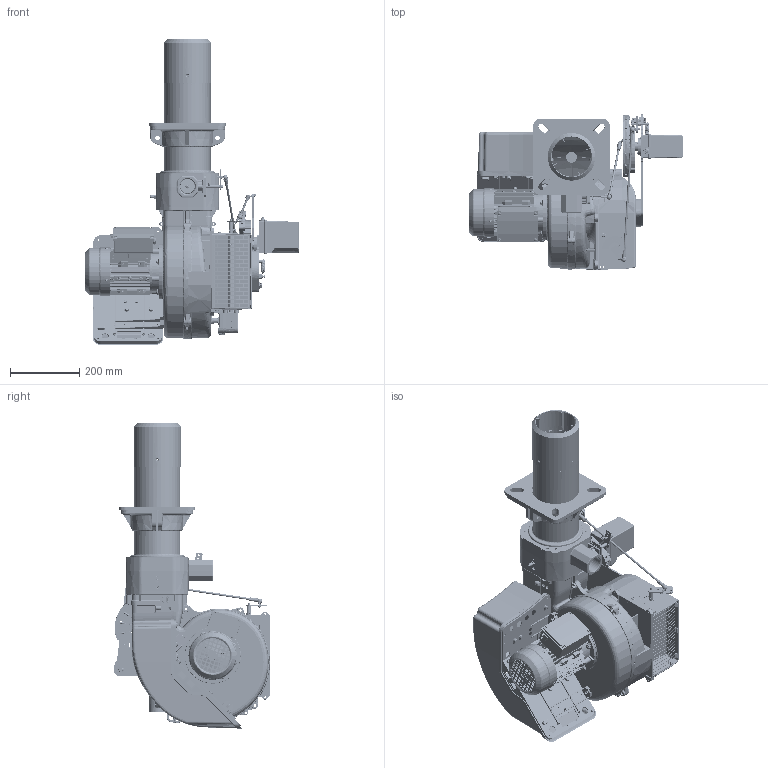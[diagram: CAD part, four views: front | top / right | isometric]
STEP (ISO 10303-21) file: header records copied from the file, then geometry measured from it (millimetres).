
FILE_DESCRIPTION (( 'STEP AP214' ), '1' );
FILE_NAME ('17240010 TBG 45MC.STEP', '2021-03-22T15:34:25', ( '' ), ( '' ), 'SwSTEP 2.0', 'SolidWorks 2018', '' );
FILE_SCHEMA (( 'AUTOMOTIVE_DESIGN' ));
Length unit declared in the file: millimetre
Products named in the file (93): 0012120195-107694; hex flange nut_tensilock_din_Hexagon Flange Nut DIN 6923 - M8 - C; 0012120175-02868; 0025010004-105617; 0025040076-109374_TIRANTE MOBILE; socket head cap screw_iso_ISO 4762 M5 x 12 --- 12C; 0025040050-100616; 18690-04847_snodo mobile; 0025030055-122531; 0025040074-108624; 0025010035-105620; 0012120194-107692; torque nut 01_iso_ISO 7040-M5-C; 0025040079-109392; spring pin slotted_ld_iso_Spring Pin ISO 13337 - 5 x 16 - St; 0012120193-107690; 0025030010-106321; hex nut style 1 gradeab_iso_Hexagon Nut ISO - 4032 - M6 - D - C; socket countersunk head screw_din_DIN 7991 - M5 x 25 --- 25C; 0025040028-106338; 0012120192-107688; 0006020143-103192; 0025010012-106304; radial ball bearing_68_skf_SKF - 625 - 8,SI,NC,8_68; socket countersunk head screw_din_DIN 7991 - M6 x 20 --- 20C; o-rings series a_nbr_iso_O-ring 6.75x1.78-A-ISO 3601-1; 0012120155-02253; 0025010027-05331; torque nut 01_iso_ISO 7040-M10-C; 0025030001-106317; 53109-02898; countersunk flat head cross recess screw_iso_ISO 7046-1 - M4 x 14 - Z --- 14C; 0025040078-109381; 0025040035-100630; Vite a testa cilindrica con calotta - DIN EN ISO 7045_ISO 14583 - M4 x 16 -4.8-C; 30418-02239; 0025010030-105619; 0012120173-02308; 0005140459-03163; socket countersunk head screw_din_DIN 7991 - M8 x 25 --- 25C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
Assembly tree (138 placements, depth 5):
  17240010  TBG 45MC
    0025010001-106296
    0025010002-106312
    0025030001-106317
    0025010016-106322
    49335-106318
    8025010003-106313
    0025010025-106298
    0006110566-106893
      0025010004-105617
      54056-03097  x2
      0025010022-106314
      0025010030-105619
      0025010035-105620
      54200-02171
      0005140459-03163
      0006050149-03557
      0025040042-103211
    0005040080-114212
    0020020030-104722
    0025040028-106338
    socket countersunk head screw_din_DIN 7991 - M8 x 25 --- 25C  x4
    hex flange nut_tensilock_din_Hexagon Flange Nut DIN 6923 - M8 - C  x4
    socket head cap screw_iso_ISO 4762 M5 x 16 --- 16C
    serrated lock washer 1_din_DIN 6798-A5.3
    0025040050-100616
    0006110577-106918_mobile
      34451-106375  x2
      0025030003-106372
      31483-01527
      0025030010-106321
      0006020143-103192
      0025040079-109392
        0025030016-106434
        0005170034-02125
        0025040038-106880
        0025030019-106436
        0024040006-02119  x2
        0025040035-100630
        54200-02171
        0025040078-109381
        countersunk flat head cross recess screw_iso_ISO 7046-1 - M4 x 14 - Z --- 14C  x2
        pan head cross recess screw_inox_iso_ISO 7045 - M5 x 6 - Z --- 6C
        o-rings series a_nbr_iso_O-ring 6.75x1.78-A-ISO 3601-1  x2
        hex nut style 1 gradeab_iso_Hexagon Nut ISO - 4032 - M5 - D - C
        serrated lock washer 1_din_DIN 6798-A5.3
      0025030002-107816
    34462-106376
    0025040070-107007_0ø
      0025040075-109250
      0006110485-02863
        0012120173-02308  x2
        0012120170-02310
        0012120155-02253  x8
        0012120192-107688  x2
        0012120193-107690
        0012120194-107692  x5
        0012120190-107146
        circlip for shafts normal_din_Circlip DIN 471 - 8 x 0.8  x2
        hexalobular socket pan head_iso_ISO 14583 - M4 x 8 -4.8-C
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Bounding box: 618.04 x 448.26 x 881.15 mm (x, y, z)
Volume: 7602510.9 mm3; surface area: 3977912.5 mm2
Topology: 165 solids, 183 shells, 16481 faces, 42119 edges, 26075 vertices
Faces by surface type: plane 6324, bspline 4918, cylinder 3666, cone 1342, torus 186, sphere 45
Full cylindrical faces by diameter (mm): 1 x10, 1.2 x2, 1.427 x1, 1.6 x7, 1.7 x2, 2.45 x2, 2.5 x6, 2.75 x4, 3 x8, 3.3 x12, 3.4 x2, 3.464 x4, 3.5 x3, 3.6 x2, 3.95 x8, 4 x9, 4.15 x4, 4.2 x46, 4.3 x9, 4.5 x13, 4.6 x6, 4.7 x8, 4.793 x1, 4.9 x4, 4.95 x1, 5 x74, 5.1 x3, 5.2 x7, 5.3 x2, 5.4 x1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
Entity records: 853700 total; most frequent: CARTESIAN_POINT 479090, ORIENTED_EDGE 74996, DIRECTION 48457, EDGE_CURVE 37519, VERTEX_POINT 24153, EDGE_LOOP 18061, VECTOR 17969, LINE 17969
